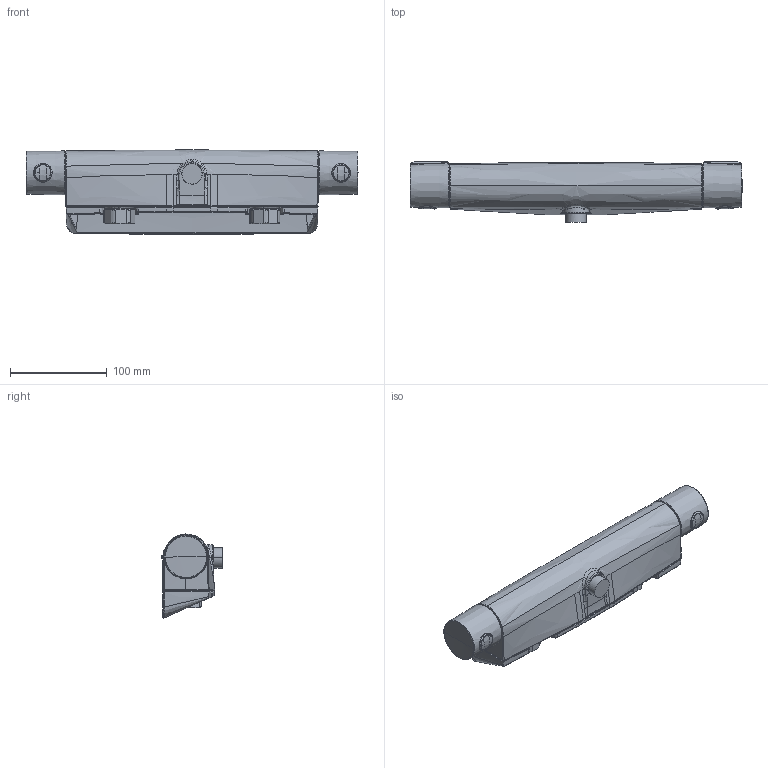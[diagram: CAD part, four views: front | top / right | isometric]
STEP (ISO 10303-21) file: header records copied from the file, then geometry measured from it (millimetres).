
FILE_DESCRIPTION (( 'STEP AP203' ), '1' );
FILE_NAME ('7160N(2023)+7160N-33(2023).STEP', '2023-01-23T06:01:42', ( '' ), ( '' ), 'SwSTEP 2.0', 'SolidWorks 2016', '' );
FILE_SCHEMA (( 'CONFIG_CONTROL_DESIGN' ));
Length unit declared in the file: millimetre
Products named in the file (1): 7160N(2023)+7160N-33(2023)
Bounding box: 342.5 x 62.9 x 86.92 mm (x, y, z)
Surface area: 118473.1 mm2 (no closed solid volume)
Topology: 0 solids, 2 shells, 565 faces, 1381 edges, 822 vertices
Faces by surface type: bspline 366, cylinder 79, plane 66, cone 46, sphere 6, torus 2
Entity records: 40824 total; most frequent: CARTESIAN_POINT 30547, ORIENTED_EDGE 2718, EDGE_CURVE 1361, DIRECTION 1229, VERTEX_POINT 822, B_SPLINE_CURVE_WITH_KNOTS 775, EDGE_LOOP 593, ADVANCED_FACE 565
